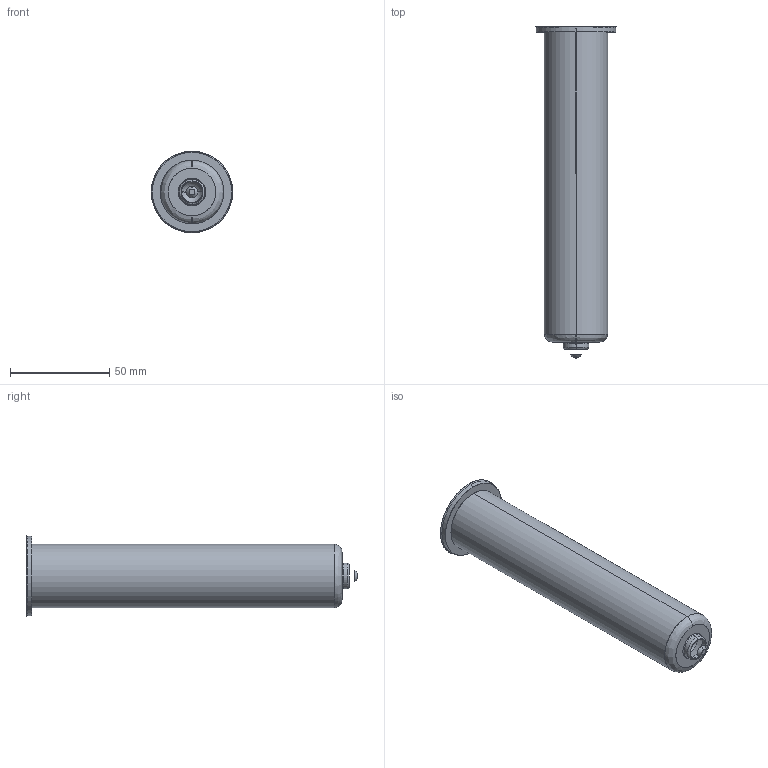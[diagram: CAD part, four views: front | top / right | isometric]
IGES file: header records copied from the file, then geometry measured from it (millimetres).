
Start section: SolidWorks IGES file using analytic representation for surfaces
Global section: file name: C:\Documents and Settings\ws-20\Desktop\TEM\Sede UGEP4504-M-A C-164 L-199 Ød-3.0.IGS; native system: SolidWorks 2012; preprocessor: SolidWorks 2012; author: ws-20; date: 120424.084018; units: millimetre
Bounding box: 41 x 167.42 x 41 mm (x, y, z)
Surface area: 18685.6 mm2 (no closed solid volume)
Topology: 0 solids, 0 shells, 25 faces, 436 edges, 436 vertices
Faces by surface type: revolution 16, bspline 9
